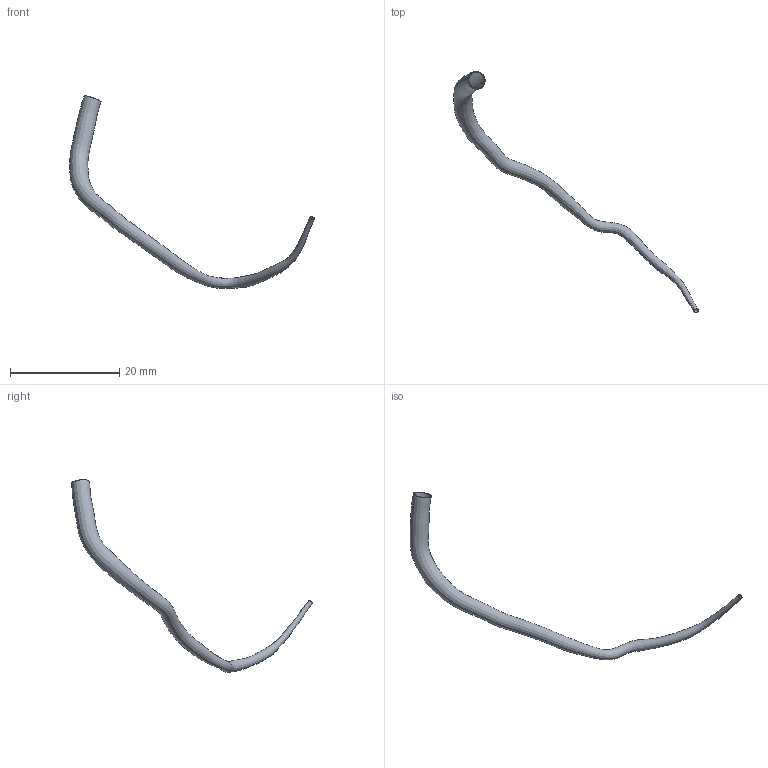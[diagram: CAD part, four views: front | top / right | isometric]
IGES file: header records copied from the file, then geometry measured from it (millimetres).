
Global section: file name: C:\Documents and Settings\Administrator\Desktop\FDA-Pig\Domestic LCA\Pig_000005\lad.seg.ed.igs; native system: Rhinoceros ( May 19 2006 ); preprocessor: Trout Lake IGES 012 May 19 2006; date: 111205.183338; units: centimetre
Bounding box: 44.77 x 44.1 x 35.3 mm (x, y, z)
Surface area: 1201.2 mm2 (no closed solid volume)
Topology: 0 solids, 0 shells, 4 faces, 13 edges, 10 vertices
Faces by surface type: bspline 4
